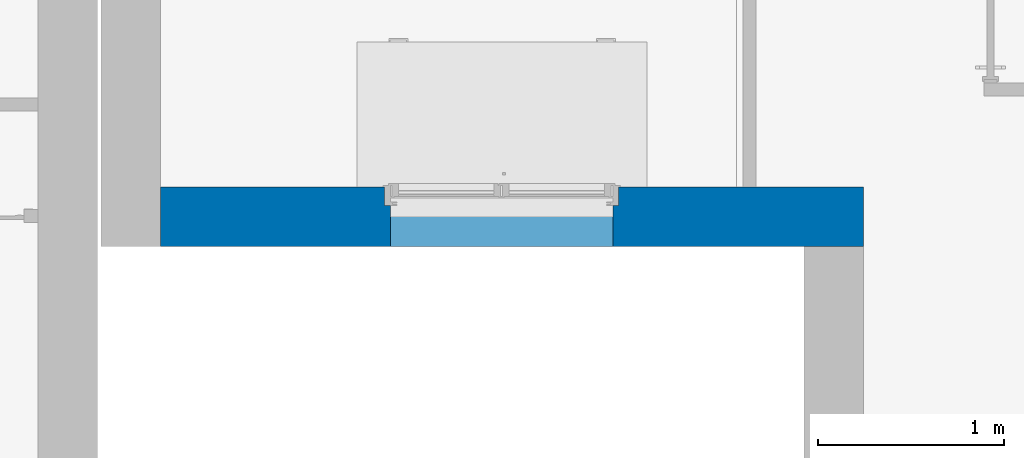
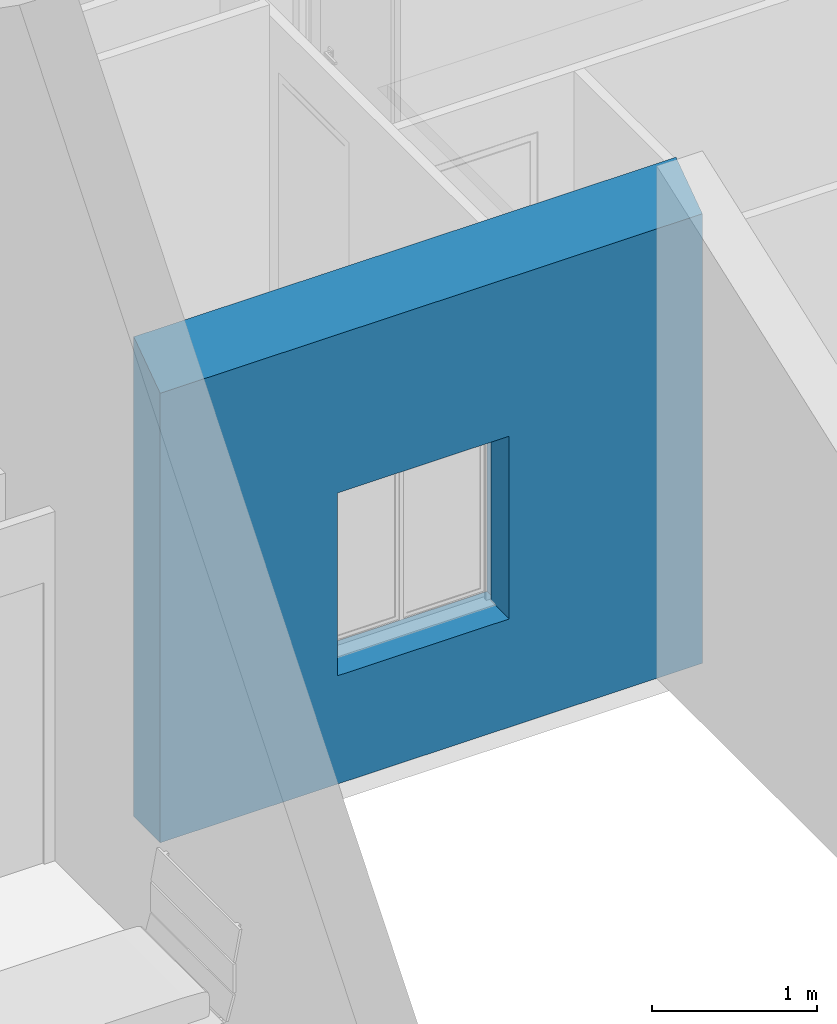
# One storey, part 24 of 61: 1 wall, 1 opening.
"""IFC2X3 building model written with IfcOpenShell, lengths in metres."""

from ifc_helpers import new_model, entity, si_unit, converted_unit, derived_unit, direction, frame, frame_2d, origin, place, context, subcontext, project, spatial, polyline, rectangle, extrude, clip, bounded_halfspace, faceted_brep, material, layer, layer_set, layer_usage, type_object, element, save


model = new_model("IFC2X3")

# Units and contexts
model_context = context("Model", 3, precision=1e-05, world=origin(), true_north=direction((6.12303176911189e-17, 1.0)))
body_context = subcontext(model_context, "Body", "Model", "MODEL_VIEW")
ifc_project = project(units=[si_unit("LENGTHUNIT", "METRE"), si_unit("AREAUNIT", "SQUARE_METRE"), si_unit("VOLUMEUNIT", "CUBIC_METRE"), converted_unit("PLANEANGLEUNIT", "DEGREE", entity("IfcRatioMeasure", 0.0174532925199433), si_unit("PLANEANGLEUNIT", "RADIAN"), dimensions=[0, 0, 0, 0, 0, 0, 0]), si_unit("MASSUNIT", "GRAM", prefix="KILO"), derived_unit("MASSDENSITYUNIT", [(si_unit("MASSUNIT", "GRAM", prefix="KILO"), 1), (si_unit("LENGTHUNIT", "METRE"), -3)]), si_unit("TIMEUNIT", "SECOND"), si_unit("FREQUENCYUNIT", "HERTZ"), si_unit("THERMODYNAMICTEMPERATUREUNIT", "DEGREE_CELSIUS"), derived_unit("THERMALTRANSMITTANCEUNIT", [(si_unit("MASSUNIT", "GRAM", prefix="KILO"), 1), (si_unit("THERMODYNAMICTEMPERATUREUNIT", "KELVIN"), -1), (si_unit("TIMEUNIT", "SECOND"), -3)]), derived_unit("VOLUMETRICFLOWRATEUNIT", [(si_unit("LENGTHUNIT", "METRE"), 3), (si_unit("TIMEUNIT", "SECOND"), -1)]), si_unit("ELECTRICCURRENTUNIT", "AMPERE"), si_unit("ELECTRICVOLTAGEUNIT", "VOLT"), si_unit("POWERUNIT", "WATT"), si_unit("FORCEUNIT", "NEWTON", prefix="KILO"), si_unit("ILLUMINANCEUNIT", "LUX"), si_unit("LUMINOUSFLUXUNIT", "LUMEN"), si_unit("LUMINOUSINTENSITYUNIT", "CANDELA"), derived_unit("USERDEFINED", [(si_unit("MASSUNIT", "GRAM", prefix="KILO"), -1), (si_unit("LENGTHUNIT", "METRE"), -2), (si_unit("TIMEUNIT", "SECOND"), 3), (si_unit("LUMINOUSFLUXUNIT", "LUMEN"), 1)]), derived_unit("LINEARVELOCITYUNIT", [(si_unit("LENGTHUNIT", "METRE"), 1), (si_unit("TIMEUNIT", "SECOND"), -1)]), si_unit("PRESSUREUNIT", "PASCAL"), derived_unit("USERDEFINED", [(si_unit("LENGTHUNIT", "METRE"), -2), (si_unit("MASSUNIT", "GRAM", prefix="KILO"), 1), (si_unit("TIMEUNIT", "SECOND"), -2)])], contexts=[model_context])

# Site, building, storey
site_placement = place(None, origin())
site = spatial("IfcSite", under=ifc_project, at=site_placement, Name="Surface", CompositionType="ELEMENT")
building_placement = place(site_placement, origin())
building = spatial("IfcBuilding", under=site, at=building_placement, CompositionType="ELEMENT")
storey_placement = place(building_placement, frame((0.0, 0.0, 2.82)))
storey = spatial("IfcBuildingStorey", under=building, at=storey_placement, Name="ETAGE", CompositionType="ELEMENT", Elevation=2.82)

# Wall, opening
ifc_material_1 = material(Name="Enduit blanc cassé2")
ifc_layer_1 = layer(ifc_material_1, 0.02)
ifc_material_2 = material(Name="Parpaing")
ifc_layer_2 = layer(ifc_material_2, 0.2)
ifc_material_3 = material(Name="Isolant")
ifc_layer_3 = layer(ifc_material_3, 0.1)
ifc_layer_set = layer_set([ifc_layer_1, ifc_layer_2, ifc_layer_3], Name="Mur de base:Ext. Parpaing 20 + Isolant 10 enduit blanc cassé")
ifc_layer_usage = layer_usage(ifc_layer_set, "AXIS2", "POSITIVE", -0.16)
wall_type = type_object("IfcWallType", Name="Mur de base:Ext. Parpaing 20 + Isolant 10 enduit blanc cassé", PredefinedType="STANDARD", material=ifc_layer_set)
wall_placement = place(storey_placement, frame((76.622756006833, 84.0875239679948, 0.0)))
wall = element("IfcWallStandardCase", 1, at=wall_placement, inside=storey, type_object=wall_type, material=ifc_layer_usage, Name="Mur de base:Ext. Parpaing 20 + Isolant 10 enduit blanc cassé", ObjectType="Mur de base:Ext. Parpaing 20 + Isolant 10 enduit blanc cassé", context=body_context, shape_type="Clipping", body=[
    clip(extrude(rectangle(XDim=3.78826294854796, YDim=0.319999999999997, at=frame_2d((1.89413147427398, 7.49400541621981e-16), x_axis=(-1.0, 0.0))), origin(), (0.0, 0.0, 1.0), 3.5440664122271), bounded_halfspace(frame((0.0, -0.159999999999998, 3.32), z_axis=(0.0, -0.573576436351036, 0.819152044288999), x_axis=(1.0, 0.0, 0.0)), False, frame((0.0, -0.159999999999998, 3.32)), polyline([(0.0, 0.0), (3.78826294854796, 0.0), (3.78826294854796, 0.319999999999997), (0.0, 0.319999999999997), (0.0, 0.0)]))),
])
opening_placement = place(wall_placement, frame((1.19826294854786, -0.46000000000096, 0.799999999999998)))
element("IfcOpeningElement", 2, at=opening_placement, cuts=wall, Name="Mur de base:Ext. Parpaing 20 + Isolant 10 enduit blanc cassé", ObjectType="Opening", context=body_context, shape_type="Brep", body=[
    faceted_brep([(0.0399999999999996, 0.0, 1.35), (1.24, 0.0, 1.35), (1.24, 0.520000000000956, 1.35), (0.0399999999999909, 0.520000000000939, 1.35), (1.24, 0.0, 0.0), (0.0399999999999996, 0.0, 0.0), (0.0399999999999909, 0.520000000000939, 0.0), (0.00999999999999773, 0.520000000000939, 0.0), (0.00999999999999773, 0.620000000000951, 0.0), (0.0399999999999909, 0.620000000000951, 0.0), (0.0399999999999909, 0.720000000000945, 0.0), (1.24, 0.720000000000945, 0.0), (1.24, 0.620000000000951, 0.0), (1.26999999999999, 0.620000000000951, 0.0), (1.26999999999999, 0.520000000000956, 0.0), (1.24, 0.520000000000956, 0.0), (0.0399999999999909, 0.720000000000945, 1.35), (1.24, 0.720000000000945, 1.35), (0.00999999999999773, 0.620000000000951, 1.38), (0.0, 0.620000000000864, 1.38000000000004), (0.0, 0.620000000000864, 1.59000000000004), (1.28000000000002, 0.620000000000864, 1.59000000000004), (1.28000000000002, 0.620000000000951, 1.38000000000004), (1.27000000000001, 0.620000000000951, 1.38), (1.24, 0.620000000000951, 1.35), (0.0399999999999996, 0.620000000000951, 1.35), (0.0100000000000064, 0.520000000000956, 1.38000000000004), (1.27000000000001, 0.520000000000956, 1.38000000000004), (1.28000000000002, 0.520000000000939, 1.38000000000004), (1.28000000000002, 0.520000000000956, 1.59000000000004), (0.0, 0.520000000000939, 1.59000000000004), (0.0, 0.520000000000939, 1.38000000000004)], [[[0, 1, 2, 3]], [[4, 5, 6, 7, 8, 9, 10, 11, 12, 13, 14, 15]], [[1, 0, 5, 4]], [[5, 0, 3, 6]], [[16, 17, 11, 10]], [[1, 4, 15, 2]], [[9, 8, 18, 19, 20, 21, 22, 23, 13, 12, 24, 25]], [[8, 7, 26, 18]], [[7, 6, 3, 2, 15, 14, 27, 28, 29, 30, 31, 26]], [[13, 23, 27, 14]], [[31, 30, 20, 19]], [[28, 22, 21, 29]], [[31, 19, 18, 26]], [[20, 30, 29, 21]], [[22, 28, 27, 23]], [[11, 17, 24, 12]], [[16, 10, 9, 25]], [[17, 16, 25, 24]]]),
])

save(model, "model.ifc")
